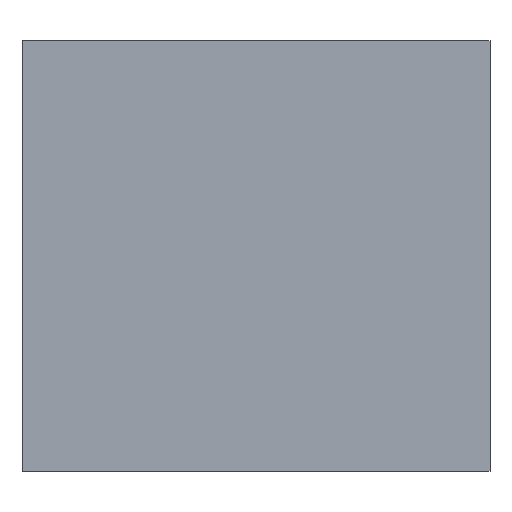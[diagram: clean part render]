
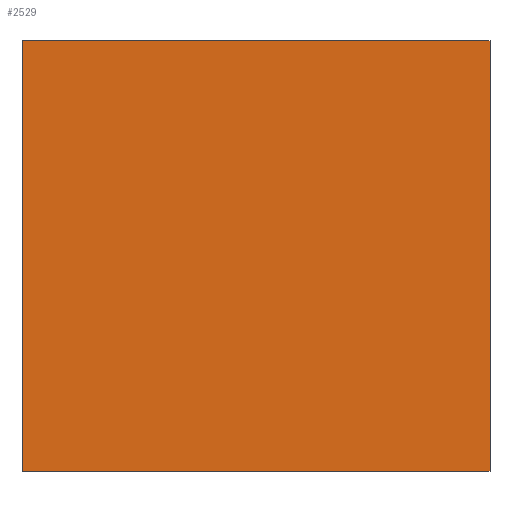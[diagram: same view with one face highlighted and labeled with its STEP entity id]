
A CAD part, front view. The second image highlights one B-rep face of the part: STEP entity #2529.
In plain terms, the highlighted planar face has unit normal (0, -1, 0).
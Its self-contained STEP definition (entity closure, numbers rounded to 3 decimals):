
#213 = ORIENTED_EDGE ( 'NONE', *, *, #1786, .F. ) ;
#224 = ORIENTED_EDGE ( 'NONE', *, *, #577, .F. ) ;
#279 = CARTESIAN_POINT ( 'NONE',  ( -500., 0., 460. ) ) ;
#328 = DIRECTION ( 'NONE',  ( 0., 1., 0. ) ) ;
#537 = CARTESIAN_POINT ( 'NONE',  ( 500., 0., -460. ) ) ;
#563 = LINE ( 'NONE', #3989, #791 ) ;
#577 = EDGE_CURVE ( 'NONE', #3706, #1700, #563, .T. ) ;
#613 = DIRECTION ( 'NONE',  ( 0., 0., -1. ) ) ;
#621 = EDGE_LOOP ( 'NONE', ( #3113, #224, #213, #890 ) ) ;
#694 = FACE_OUTER_BOUND ( 'NONE', #621, .T. ) ;
#791 = VECTOR ( 'NONE', #613, 1000. ) ;
#890 = ORIENTED_EDGE ( 'NONE', *, *, #1353, .T. ) ;
#1192 = CARTESIAN_POINT ( 'NONE',  ( 500., 0., 460. ) ) ;
#1217 = DIRECTION ( 'NONE',  ( 0., 0., 1. ) ) ;
#1229 = CARTESIAN_POINT ( 'NONE',  ( -500., 0., -460. ) ) ;
#1353 = EDGE_CURVE ( 'NONE', #2487, #2344, #1861, .T. ) ;
#1700 = VERTEX_POINT ( 'NONE', #537 ) ;
#1786 = EDGE_CURVE ( 'NONE', #2487, #3706, #2340, .T. ) ;
#1788 = DIRECTION ( 'NONE',  ( 0., 0., -1. ) ) ;
#1838 = CARTESIAN_POINT ( 'NONE',  ( -500., 0., 460. ) ) ;
#1861 = LINE ( 'NONE', #279, #2459 ) ;
#1891 = EDGE_CURVE ( 'NONE', #2344, #1700, #1990, .T. ) ;
#1912 = AXIS2_PLACEMENT_3D ( 'NONE', #1963, #328, #1217 ) ;
#1963 = CARTESIAN_POINT ( 'NONE',  ( 500., 0., 460. ) ) ;
#1990 = LINE ( 'NONE', #2391, #4503 ) ;
#2340 = LINE ( 'NONE', #1192, #3394 ) ;
#2344 = VERTEX_POINT ( 'NONE', #1229 ) ;
#2391 = CARTESIAN_POINT ( 'NONE',  ( 500., 0., -460. ) ) ;
#2459 = VECTOR ( 'NONE', #1788, 1000. ) ;
#2487 = VERTEX_POINT ( 'NONE', #1838 ) ;
#2529 = ADVANCED_FACE ( 'NONE', ( #694 ), #3333, .F. ) ;
#2712 = DIRECTION ( 'NONE',  ( 1., 0., 0. ) ) ;
#2972 = DIRECTION ( 'NONE',  ( 1., 0., 0. ) ) ;
#3113 = ORIENTED_EDGE ( 'NONE', *, *, #1891, .T. ) ;
#3247 = CARTESIAN_POINT ( 'NONE',  ( 500., 0., 460. ) ) ;
#3333 = PLANE ( 'NONE',  #1912 ) ;
#3394 = VECTOR ( 'NONE', #2972, 1000. ) ;
#3706 = VERTEX_POINT ( 'NONE', #3247 ) ;
#3989 = CARTESIAN_POINT ( 'NONE',  ( 500., 0., 460. ) ) ;
#4503 = VECTOR ( 'NONE', #2712, 1000. ) ;
